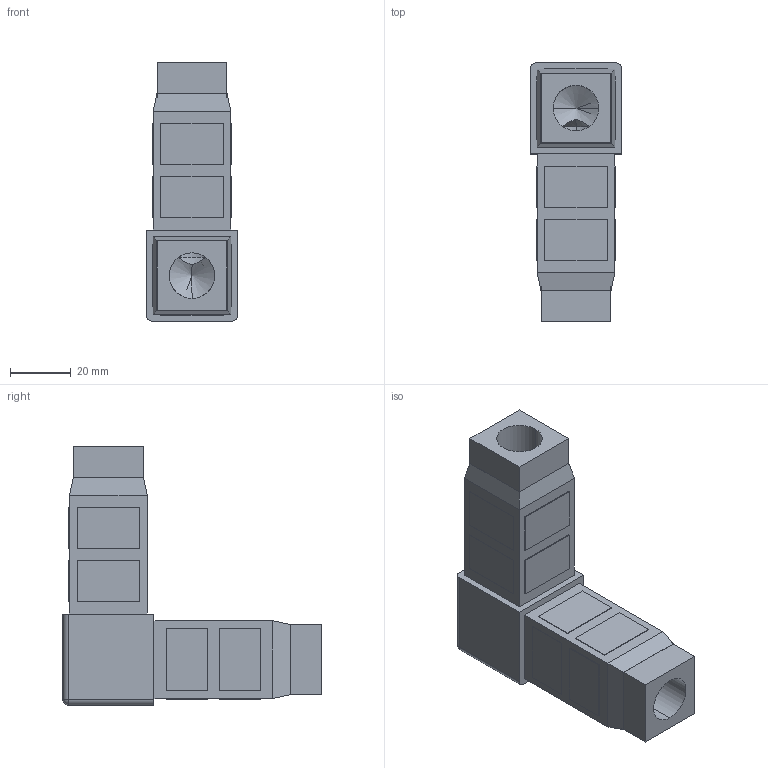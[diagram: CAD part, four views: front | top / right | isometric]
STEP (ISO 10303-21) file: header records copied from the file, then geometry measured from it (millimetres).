
FILE_DESCRIPTION (( 'STEP AP203' ), '1' );
FILE_NAME ('F030102.STEP', '2017-03-22T12:48:02', ( 'Localadmin' ), ( 'Microsoft' ), 'SwSTEP 2.0', 'SolidWorks 2016', '' );
FILE_SCHEMA (( 'CONFIG_CONTROL_DESIGN' ));
Length unit declared in the file: millimetre
Products named in the file (1): F030102
Bounding box: 30 x 85 x 85 mm (x, y, z)
Volume: 73420.9 mm3; surface area: 44369.6 mm2
Topology: 2 solids, 2 shells, 137 faces, 332 edges, 210 vertices
Faces by surface type: plane 118, cylinder 11, cone 6, sphere 2
Entity records: 3962 total; most frequent: CARTESIAN_POINT 704, ORIENTED_EDGE 648, DIRECTION 619, EDGE_CURVE 324, LINE 297, VECTOR 297, VERTEX_POINT 210, AXIS2_PLACEMENT_3D 161
